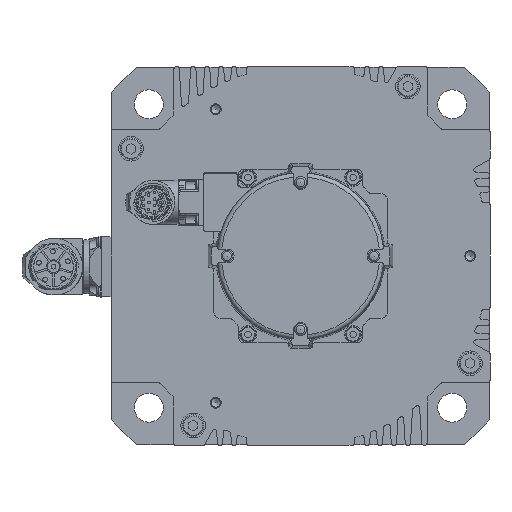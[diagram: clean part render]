
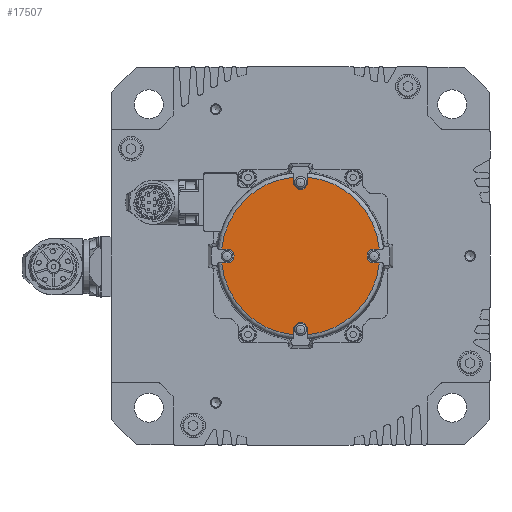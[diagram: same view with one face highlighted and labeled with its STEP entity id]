
A CAD part, left-side view. The second image highlights one B-rep face of the part: STEP entity #17507.
In plain terms, the highlighted planar face has unit normal (-1, 0, 0).
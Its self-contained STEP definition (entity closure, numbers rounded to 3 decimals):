
#746=LINE('',#26339,#2240);
#747=LINE('',#26344,#2241);
#748=LINE('',#26348,#2242);
#749=LINE('',#26352,#2243);
#750=LINE('',#26356,#2244);
#751=LINE('',#26360,#2245);
#752=LINE('',#26364,#2246);
#753=LINE('',#26368,#2247);
#2240=VECTOR('',#20739,1000.);
#2241=VECTOR('',#20742,1000.);
#2242=VECTOR('',#20745,1000.);
#2243=VECTOR('',#20748,1000.);
#2244=VECTOR('',#20751,1000.);
#2245=VECTOR('',#20754,1000.);
#2246=VECTOR('',#20757,1000.);
#2247=VECTOR('',#20760,1000.);
#3768=ORIENTED_EDGE('',*,*,#9033,.F.);
#3769=ORIENTED_EDGE('',*,*,#9034,.T.);
#3770=ORIENTED_EDGE('',*,*,#9035,.F.);
#3771=ORIENTED_EDGE('',*,*,#9036,.F.);
#3772=ORIENTED_EDGE('',*,*,#9037,.F.);
#3773=ORIENTED_EDGE('',*,*,#9038,.T.);
#3774=ORIENTED_EDGE('',*,*,#9039,.F.);
#3775=ORIENTED_EDGE('',*,*,#9040,.F.);
#3776=ORIENTED_EDGE('',*,*,#9041,.F.);
#3777=ORIENTED_EDGE('',*,*,#9042,.T.);
#3778=ORIENTED_EDGE('',*,*,#9043,.F.);
#3779=ORIENTED_EDGE('',*,*,#9044,.F.);
#3780=ORIENTED_EDGE('',*,*,#9045,.F.);
#3781=ORIENTED_EDGE('',*,*,#9046,.T.);
#3782=ORIENTED_EDGE('',*,*,#9047,.F.);
#3783=ORIENTED_EDGE('',*,*,#9048,.F.);
#9033=EDGE_CURVE('',#11665,#11666,#746,.T.);
#9034=EDGE_CURVE('',#11665,#11667,#13402,.T.);
#9035=EDGE_CURVE('',#11668,#11667,#747,.T.);
#9036=EDGE_CURVE('',#11669,#11668,#13403,.T.);
#9037=EDGE_CURVE('',#11670,#11669,#748,.T.);
#9038=EDGE_CURVE('',#11670,#11671,#13404,.T.);
#9039=EDGE_CURVE('',#11672,#11671,#749,.T.);
#9040=EDGE_CURVE('',#11673,#11672,#13405,.T.);
#9041=EDGE_CURVE('',#11674,#11673,#750,.T.);
#9042=EDGE_CURVE('',#11674,#11675,#13406,.T.);
#9043=EDGE_CURVE('',#11676,#11675,#751,.T.);
#9044=EDGE_CURVE('',#11677,#11676,#13407,.T.);
#9045=EDGE_CURVE('',#11678,#11677,#752,.T.);
#9046=EDGE_CURVE('',#11678,#11679,#13408,.T.);
#9047=EDGE_CURVE('',#11680,#11679,#753,.T.);
#9048=EDGE_CURVE('',#11666,#11680,#13409,.T.);
#11665=VERTEX_POINT('',#26340);
#11666=VERTEX_POINT('',#26341);
#11667=VERTEX_POINT('',#26343);
#11668=VERTEX_POINT('',#26345);
#11669=VERTEX_POINT('',#26347);
#11670=VERTEX_POINT('',#26349);
#11671=VERTEX_POINT('',#26351);
#11672=VERTEX_POINT('',#26353);
#11673=VERTEX_POINT('',#26355);
#11674=VERTEX_POINT('',#26357);
#11675=VERTEX_POINT('',#26359);
#11676=VERTEX_POINT('',#26361);
#11677=VERTEX_POINT('',#26363);
#11678=VERTEX_POINT('',#26365);
#11679=VERTEX_POINT('',#26367);
#11680=VERTEX_POINT('',#26369);
#13402=CIRCLE('',#18624,3.25);
#13403=CIRCLE('',#18625,36.85);
#13404=CIRCLE('',#18626,3.25);
#13405=CIRCLE('',#18627,36.85);
#13406=CIRCLE('',#18628,3.25);
#13407=CIRCLE('',#18629,36.85);
#13408=CIRCLE('',#18630,3.25);
#13409=CIRCLE('',#18631,36.85);
#14371=EDGE_LOOP('',(#3768,#3769,#3770,#3771,#3772,#3773,#3774,#3775,#3776,
#3777,#3778,#3779,#3780,#3781,#3782,#3783));
#15660=FACE_BOUND('',#14371,.T.);
#16941=PLANE('',#18623);
#17507=ADVANCED_FACE('',(#15660),#16941,.F.);
#18623=AXIS2_PLACEMENT_3D('',#26338,#20737,#20738);
#18624=AXIS2_PLACEMENT_3D('',#26342,#20740,#20741);
#18625=AXIS2_PLACEMENT_3D('',#26346,#20743,#20744);
#18626=AXIS2_PLACEMENT_3D('',#26350,#20746,#20747);
#18627=AXIS2_PLACEMENT_3D('',#26354,#20749,#20750);
#18628=AXIS2_PLACEMENT_3D('',#26358,#20752,#20753);
#18629=AXIS2_PLACEMENT_3D('',#26362,#20755,#20756);
#18630=AXIS2_PLACEMENT_3D('',#26366,#20758,#20759);
#18631=AXIS2_PLACEMENT_3D('',#26370,#20761,#20762);
#20737=DIRECTION('',(1.,0.,0.));
#20738=DIRECTION('',(0.,0.,-1.));
#20739=DIRECTION('',(0.,1.,0.));
#20740=DIRECTION('',(1.,0.,0.));
#20741=DIRECTION('',(0.,0.,-1.));
#20742=DIRECTION('',(0.,-1.,0.));
#20743=DIRECTION('',(1.,0.,0.));
#20744=DIRECTION('',(0.,0.,-1.));
#20745=DIRECTION('',(0.,0.,-1.));
#20746=DIRECTION('',(1.,0.,0.));
#20747=DIRECTION('',(0.,0.,-1.));
#20748=DIRECTION('',(0.,0.,1.));
#20749=DIRECTION('',(1.,0.,0.));
#20750=DIRECTION('',(0.,0.,-1.));
#20751=DIRECTION('',(0.,-1.,0.));
#20752=DIRECTION('',(1.,0.,0.));
#20753=DIRECTION('',(0.,0.,-1.));
#20754=DIRECTION('',(0.,1.,0.));
#20755=DIRECTION('',(1.,0.,0.));
#20756=DIRECTION('',(0.,0.,-1.));
#20757=DIRECTION('',(0.,0.,1.));
#20758=DIRECTION('',(1.,0.,0.));
#20759=DIRECTION('',(0.,0.,-1.));
#20760=DIRECTION('',(0.,0.,-1.));
#20761=DIRECTION('',(1.,0.,0.));
#20762=DIRECTION('',(0.,0.,-1.));
#26338=CARTESIAN_POINT('',(-192.,0.,0.));
#26339=CARTESIAN_POINT('',(-192.,34.25,3.25));
#26340=CARTESIAN_POINT('',(-192.,34.25,3.25));
#26341=CARTESIAN_POINT('',(-192.,36.706,3.25));
#26342=CARTESIAN_POINT('',(-192.,34.25,0.));
#26343=CARTESIAN_POINT('',(-192.,34.25,-3.25));
#26344=CARTESIAN_POINT('',(-192.,38.166,-3.25));
#26345=CARTESIAN_POINT('',(-192.,36.706,-3.25));
#26346=CARTESIAN_POINT('',(-192.,0.,0.));
#26347=CARTESIAN_POINT('',(-192.,3.25,-36.706));
#26348=CARTESIAN_POINT('',(-192.,3.25,-34.25));
#26349=CARTESIAN_POINT('',(-192.,3.25,-34.25));
#26350=CARTESIAN_POINT('',(-192.,0.,-34.25));
#26351=CARTESIAN_POINT('',(-192.,-3.25,-34.25));
#26352=CARTESIAN_POINT('',(-192.,-3.25,-38.166));
#26353=CARTESIAN_POINT('',(-192.,-3.25,-36.706));
#26354=CARTESIAN_POINT('',(-192.,0.,0.));
#26355=CARTESIAN_POINT('',(-192.,-36.706,-3.25));
#26356=CARTESIAN_POINT('',(-192.,-34.25,-3.25));
#26357=CARTESIAN_POINT('',(-192.,-34.25,-3.25));
#26358=CARTESIAN_POINT('',(-192.,-34.25,0.));
#26359=CARTESIAN_POINT('',(-192.,-34.25,3.25));
#26360=CARTESIAN_POINT('',(-192.,-38.166,3.25));
#26361=CARTESIAN_POINT('',(-192.,-36.706,3.25));
#26362=CARTESIAN_POINT('',(-192.,0.,0.));
#26363=CARTESIAN_POINT('',(-192.,-3.25,36.706));
#26364=CARTESIAN_POINT('',(-192.,-3.25,34.25));
#26365=CARTESIAN_POINT('',(-192.,-3.25,34.25));
#26366=CARTESIAN_POINT('',(-192.,0.,34.25));
#26367=CARTESIAN_POINT('',(-192.,3.25,34.25));
#26368=CARTESIAN_POINT('',(-192.,3.25,38.166));
#26369=CARTESIAN_POINT('',(-192.,3.25,36.706));
#26370=CARTESIAN_POINT('',(-192.,0.,0.));
